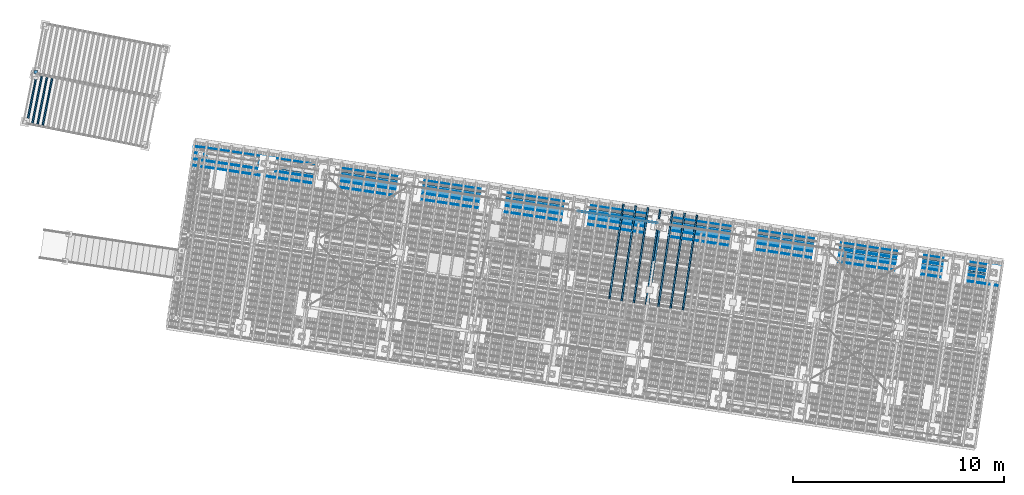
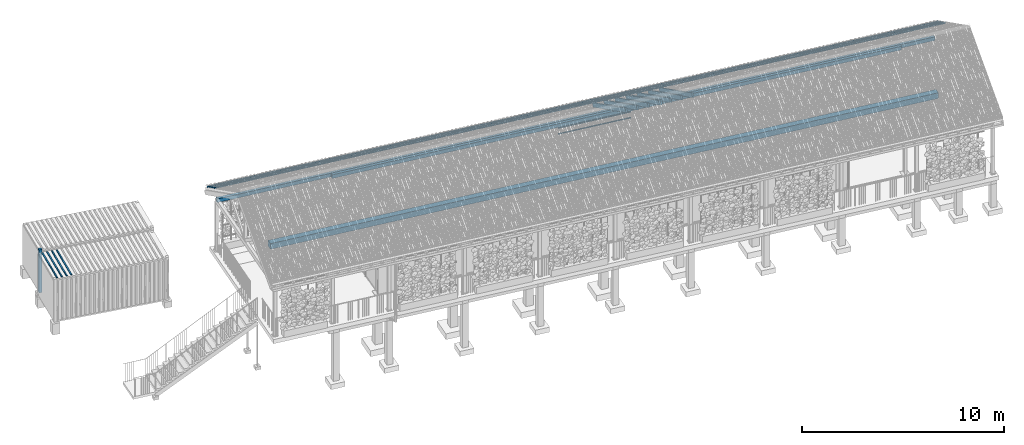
# One storey, part 82 of 131: 19 members, 3 beams, 5 elements without a shape of their own.
"""IFC4 building model written with IfcOpenShell, lengths in metres."""

from ifc_helpers import new_model, si_unit, direction, frame, origin_with_axes, place, context, subcontext, project, spatial, polyline, rectangle, outline, extrude, material, material_profile, profile_set, profile_usage, type_object, element, aggregate, save


model = new_model("IFC4")

# Units and contexts
model_context = context("Model", 3, precision=1e-05, world=origin_with_axes(), true_north=direction((0.0, 1.0)))
body_context = subcontext(model_context, "Body", "Model", "MODEL_VIEW")
ifc_project = project(units=[si_unit("VOLUMEUNIT", "CUBIC_METRE"), si_unit("LENGTHUNIT", "METRE"), si_unit("AREAUNIT", "SQUARE_METRE")], contexts=[model_context])

# Site, building, storey
site_placement = place(None, origin_with_axes())
site = spatial("IfcSite", under=ifc_project, at=site_placement, Name="Lares · Rua das Mercês · artigo 4771")
building_placement = place(site_placement, frame((15.0, 9.7, 15.8), z_axis=(0.0, 0.0, 1.0), x_axis=(0.989015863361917, -0.147809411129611, 0.0)))
building = spatial("IfcBuilding", under=site, at=building_placement, Name="Casa Sobreposta")
storey_placement = place(building_placement, origin_with_axes())
storey = spatial("IfcBuildingStorey", under=building, at=storey_placement, Name="00 · Habitação e estacionamento", Elevation=15.8)

# Beam
ifc_material_1 = material(Name="Madeira / Bauholz", Category="wood")
ifc_material_profile_1 = material_profile(ifc_material_1, rectangle(XDim=0.16, YDim=0.22))
ifc_profile_set_1 = profile_set([ifc_material_profile_1], Name="TIMBER0.160x0.220")
ifc_profile_usage_1 = profile_usage(ifc_profile_set_1)
beam_type = type_object("IfcBeamType", Name="TIMBER0.160x0.220 / timber", PredefinedType="NOTDEFINED", material=ifc_profile_set_1)
beam_1_placement = place(storey_placement, frame((0.0, 6.28, 3.0), z_axis=(1.0, 0.0, 0.0), x_axis=(0.0, -1.0, 0.0)))
element("IfcBeam", 1, at=beam_1_placement, inside=storey, type_object=beam_type, material=ifc_profile_usage_1, Name="Cobertura · frechal longitudinal", context=body_context, shape_type="SweptSolid", body=[
    extrude(rectangle(XDim=0.16, YDim=0.22), origin_with_axes(), (0.0, 0.0, 1.0), 30.22),
])

# Assembly, beam
assembly_1_placement = place(storey_placement, origin_with_axes())
assembly_1 = element("IfcElementAssembly", 2, at=assembly_1_placement, inside=storey, Name="Varanda coberta · continuação integral da cobertura", ObjectType="COVERED_PODIUM_BALCONY", PredefinedType="USERDEFINED")
ifc_profile_usage_2 = profile_usage(ifc_profile_set_1)
beam_2_placement = place(assembly_1_placement, frame((-6.05, 6.43, 3.0), z_axis=(1.0, 0.0, 0.0), x_axis=(0.0, -1.0, 0.0)))
beam_2 = element("IfcBeam", 3, at=beam_2_placement, type_object=beam_type, material=ifc_profile_usage_2, Name="Varanda coberta · frechal", context=body_context, shape_type="SweptSolid", body=[
    extrude(rectangle(XDim=0.16, YDim=0.22), origin_with_axes(), (0.0, 0.0, 1.0), 38.1),
])
aggregate(assembly_1, [beam_2])

# Members
ifc_material_2 = material(Name="Aço pintado / Stahl lackiert", Category="steel")
ifc_material_profile_2 = material_profile(ifc_material_2, rectangle(XDim=0.035, YDim=0.035))
ifc_profile_set_2 = profile_set([ifc_material_profile_2], Name="R0.035")
ifc_profile_usage_3 = profile_usage(ifc_profile_set_2)
member_type_1 = type_object("IfcMemberType", Name="R0.035 / steel", PredefinedType="NOTDEFINED", material=ifc_profile_set_2)
member_1_placement = place(storey_placement, frame((12.08, 6.4, 2.35), z_axis=(1.0, 0.0, 0.0), x_axis=(0.0, -1.0, 0.0)))
element("IfcMember", 4, at=member_1_placement, inside=storey, type_object=member_type_1, material=ifc_profile_usage_3, Name="Rasgo norte 4 · travessa", context=body_context, shape_type="SweptSolid", body=[
    extrude(rectangle(XDim=0.035, YDim=0.035), origin_with_axes(), (0.0, 0.0, 1.0), 3.84),
])
ifc_profile_usage_4 = profile_usage(ifc_profile_set_2)
member_2_placement = place(storey_placement, frame((12.08, 6.4, 2.7), z_axis=(1.0, 0.0, 0.0), x_axis=(0.0, -1.0, 0.0)))
element("IfcMember", 5, at=member_2_placement, inside=storey, type_object=member_type_1, material=ifc_profile_usage_4, Name="Rasgo norte 4 · travessa", context=body_context, shape_type="SweptSolid", body=[
    extrude(rectangle(XDim=0.035, YDim=0.035), origin_with_axes(), (0.0, 0.0, 1.0), 3.84),
])

# Roof, members
roof_placement = place(storey_placement, origin_with_axes())
roof = element("IfcRoof", 6, at=roof_placement, inside=storey, material=ifc_material_1, Name="Cobertura de telha · duas águas 30 graus", PredefinedType="GABLE_ROOF")
ifc_material_profile_3 = material_profile(ifc_material_1, rectangle(XDim=0.16, YDim=0.24))
ifc_profile_set_3 = profile_set([ifc_material_profile_3], Name="TIMBER0.160x0.240")
ifc_profile_usage_5 = profile_usage(ifc_profile_set_3)
member_type_2 = type_object("IfcMemberType", Name="TIMBER0.160x0.240 / timber", PredefinedType="NOTDEFINED", material=ifc_profile_set_3)
member_3_placement = place(roof_placement, frame((16.0, 2.55, 5.74420869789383), z_axis=(0.0, 0.866025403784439, -0.5), x_axis=(1.0, 0.0, 0.0)))
member_3 = element("IfcMember", 7, at=member_3_placement, type_object=member_type_2, material=ifc_profile_usage_5, Name="Tesoura · perna", context=body_context, shape_type="SweptSolid", body=[
    extrude(rectangle(XDim=0.16, YDim=0.24), origin_with_axes(), (0.0, 0.0, 1.0), 4.4802380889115),
])
ifc_material_profile_4 = material_profile(ifc_material_1, rectangle(XDim=0.08, YDim=0.24))
ifc_profile_set_4 = profile_set([ifc_material_profile_4], Name="TIMBER0.080x0.240")
ifc_profile_usage_6 = profile_usage(ifc_profile_set_4)
member_type_3 = type_object("IfcMemberType", Name="TIMBER0.080x0.240 / timber", PredefinedType="NOTDEFINED", material=ifc_profile_set_4)
member_4_placement = place(roof_placement, frame((14.1757575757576, 2.55, 5.75020869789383), z_axis=(0.0, 0.866025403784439, -0.5), x_axis=(1.0, 0.0, 0.0)))
member_4 = element("IfcMember", 8, at=member_4_placement, type_object=member_type_3, material=ifc_profile_usage_6, Name="Cobertura · caibro", context=body_context, shape_type="SweptSolid", body=[
    extrude(rectangle(XDim=0.08, YDim=0.24), origin_with_axes(), (0.0, 0.0, 1.0), 5.13841739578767),
])
ifc_profile_usage_7 = profile_usage(ifc_profile_set_4)
member_5_placement = place(roof_placement, frame((14.7636363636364, 2.55, 5.75020869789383), z_axis=(0.0, 0.866025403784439, -0.5), x_axis=(1.0, 0.0, 0.0)))
member_5 = element("IfcMember", 9, at=member_5_placement, type_object=member_type_3, material=ifc_profile_usage_7, Name="Cobertura · caibro", context=body_context, shape_type="SweptSolid", body=[
    extrude(rectangle(XDim=0.08, YDim=0.24), origin_with_axes(), (0.0, 0.0, 1.0), 5.13841739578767),
])
ifc_profile_usage_8 = profile_usage(ifc_profile_set_4)
member_6_placement = place(roof_placement, frame((15.3515151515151, 2.55, 5.75020869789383), z_axis=(0.0, 0.866025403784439, -0.5), x_axis=(1.0, 0.0, 0.0)))
member_6 = element("IfcMember", 10, at=member_6_placement, type_object=member_type_3, material=ifc_profile_usage_8, Name="Cobertura · caibro", context=body_context, shape_type="SweptSolid", body=[
    extrude(rectangle(XDim=0.08, YDim=0.24), origin_with_axes(), (0.0, 0.0, 1.0), 5.13841739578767),
])
ifc_profile_usage_9 = profile_usage(ifc_profile_set_4)
member_7_placement = place(roof_placement, frame((15.9393939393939, 2.55, 5.75020869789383), z_axis=(0.0, 0.866025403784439, -0.5), x_axis=(1.0, 0.0, 0.0)))
member_7 = element("IfcMember", 11, at=member_7_placement, type_object=member_type_3, material=ifc_profile_usage_9, Name="Cobertura · caibro", context=body_context, shape_type="SweptSolid", body=[
    extrude(rectangle(XDim=0.08, YDim=0.24), origin_with_axes(), (0.0, 0.0, 1.0), 5.13841739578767),
])
ifc_profile_usage_10 = profile_usage(ifc_profile_set_4)
member_8_placement = place(roof_placement, frame((16.5272727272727, 2.55, 5.75020869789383), z_axis=(0.0, 0.866025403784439, -0.5), x_axis=(1.0, 0.0, 0.0)))
member_8 = element("IfcMember", 12, at=member_8_placement, type_object=member_type_3, material=ifc_profile_usage_10, Name="Cobertura · caibro", context=body_context, shape_type="SweptSolid", body=[
    extrude(rectangle(XDim=0.08, YDim=0.24), origin_with_axes(), (0.0, 0.0, 1.0), 5.13841739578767),
])
ifc_profile_usage_11 = profile_usage(ifc_profile_set_4)
member_9_placement = place(roof_placement, frame((17.1151515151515, 2.55, 5.75020869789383), z_axis=(0.0, 0.866025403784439, -0.5), x_axis=(1.0, 0.0, 0.0)))
member_9 = element("IfcMember", 13, at=member_9_placement, type_object=member_type_3, material=ifc_profile_usage_11, Name="Cobertura · caibro", context=body_context, shape_type="SweptSolid", body=[
    extrude(rectangle(XDim=0.08, YDim=0.24), origin_with_axes(), (0.0, 0.0, 1.0), 5.13841739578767),
])
ifc_profile_usage_12 = profile_usage(ifc_profile_set_4)
member_10_placement = place(roof_placement, frame((17.7030303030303, 2.55, 5.75020869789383), z_axis=(0.0, 0.866025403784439, -0.5), x_axis=(1.0, 0.0, 0.0)))
member_10 = element("IfcMember", 14, at=member_10_placement, type_object=member_type_3, material=ifc_profile_usage_12, Name="Cobertura · caibro", context=body_context, shape_type="SweptSolid", body=[
    extrude(rectangle(XDim=0.08, YDim=0.24), origin_with_axes(), (0.0, 0.0, 1.0), 5.13841739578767),
])
ifc_material_profile_5 = material_profile(ifc_material_1, rectangle(XDim=0.045, YDim=0.06))
ifc_profile_set_5 = profile_set([ifc_material_profile_5], Name="TIMBER0.045x0.060")
ifc_profile_usage_13 = profile_usage(ifc_profile_set_5)
member_type_4 = type_object("IfcMemberType", Name="TIMBER0.045x0.060 / timber", PredefinedType="NOTDEFINED", material=ifc_profile_set_5)
member_11_placement = place(roof_placement, frame((-6.4, 5.85, 4.19795280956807), z_axis=(1.0, 0.0, 0.0), x_axis=(0.0, -1.0, 0.0)))
member_11 = element("IfcMember", 15, at=member_11_placement, type_object=member_type_4, material=ifc_profile_usage_13, Name="Cobertura · ripa ventilada", context=body_context, shape_type="SweptSolid", body=[
    extrude(rectangle(XDim=0.045, YDim=0.06), origin_with_axes(), (0.0, 0.0, 1.0), 38.8),
])
ifc_profile_usage_14 = profile_usage(ifc_profile_set_5)
member_12_placement = place(roof_placement, frame((-6.4, 6.15, 4.02474772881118), z_axis=(1.0, 0.0, 0.0), x_axis=(0.0, -1.0, 0.0)))
member_12 = element("IfcMember", 16, at=member_12_placement, type_object=member_type_4, material=ifc_profile_usage_14, Name="Cobertura · ripa ventilada", context=body_context, shape_type="SweptSolid", body=[
    extrude(rectangle(XDim=0.045, YDim=0.06), origin_with_axes(), (0.0, 0.0, 1.0), 38.8),
])
ifc_profile_usage_15 = profile_usage(ifc_profile_set_5)
member_13_placement = place(roof_placement, frame((-6.4, 6.45, 3.8515426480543), z_axis=(1.0, 0.0, 0.0), x_axis=(0.0, -1.0, 0.0)))
member_13 = element("IfcMember", 17, at=member_13_placement, type_object=member_type_4, material=ifc_profile_usage_15, Name="Cobertura · ripa ventilada", context=body_context, shape_type="SweptSolid", body=[
    extrude(rectangle(XDim=0.045, YDim=0.06), origin_with_axes(), (0.0, 0.0, 1.0), 38.8),
])
ifc_profile_usage_16 = profile_usage(ifc_profile_set_5)
member_14_placement = place(roof_placement, frame((-6.4, 6.75, 3.67833756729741), z_axis=(1.0, 0.0, 0.0), x_axis=(0.0, -1.0, 0.0)))
member_14 = element("IfcMember", 18, at=member_14_placement, type_object=member_type_4, material=ifc_profile_usage_16, Name="Cobertura · ripa ventilada", context=body_context, shape_type="SweptSolid", body=[
    extrude(rectangle(XDim=0.045, YDim=0.06), origin_with_axes(), (0.0, 0.0, 1.0), 38.8),
])
aggregate(roof, [member_3, member_4, member_5, member_6, member_7, member_8, member_9, member_10, member_11, member_12, member_13, member_14])

# Assembly, beam
assembly_2_placement = place(storey_placement, origin_with_axes())
assembly_2 = element("IfcElementAssembly", 19, at=assembly_2_placement, inside=storey, Name="Pódio · terraço, casa térrea e cisterna", ObjectType="CISTERN_PODIUM", PredefinedType="USERDEFINED")
ifc_material_3 = material(Name="Betão armado / Stahlbeton", Category="concrete")
beam_3_placement = place(assembly_2_placement, frame((0.0, 0.0, -0.59), z_axis=(0.0, 0.0, 1.0), x_axis=(1.0, 0.0, 0.0)))
beam_3 = element("IfcBeam", 20, at=beam_3_placement, material=ifc_material_3, Name="Pódio suspenso · viga longitudinal", context=body_context, shape_type="SweptSolid", body=[
    extrude(outline(polyline([(32.21, 6.27), (32.21, 6.59), (-3.25, 6.59), (-3.25, 6.27), (32.21, 6.27)])), origin_with_axes(), (0.0, 0.0, 1.0), 0.34),
])
aggregate(assembly_2, [beam_3])

# Assembly, member
assembly_3_placement = place(storey_placement, frame((-14.4335953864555, 9.04888612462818, 0.0), z_axis=(0.0, 0.0, 1.0), x_axis=(0.999032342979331, -0.0439815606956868, 0.0)))
assembly_3 = element("IfcElementAssembly", 21, at=assembly_3_placement, inside=storey, Name="Contentor existente 1 · 6 m", ObjectType="EXISTING_SHIPPING_CONTAINER", PredefinedType="USERDEFINED")
ifc_material_4 = material(Name="Contentor · pintura 1", Category="steel")
member_15_placement = place(assembly_3_placement, frame((0.0, 0.0, -2.16314181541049), z_axis=(0.0, 0.0, 1.0), x_axis=(1.0, 0.0, 0.0)))
member_15 = element("IfcMember", 22, at=member_15_placement, material=ifc_material_4, Name="Contentor · canto", context=body_context, shape_type="SweptSolid", body=[
    extrude(outline(polyline([(0.16, 0.0), (0.16, 0.16), (0.0, 0.16), (0.0, 0.0), (0.16, 0.0)])), origin_with_axes(), (0.0, 0.0, 1.0), 2.59),
])
aggregate(assembly_3, [member_15])

# Assembly, members
assembly_4_placement = place(storey_placement, frame((-14.5932944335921, 6.63122214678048, 0.0), z_axis=(0.0, 0.0, 1.0), x_axis=(0.998832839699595, -0.0483007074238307, 0.0)))
assembly_4 = element("IfcElementAssembly", 23, at=assembly_4_placement, inside=storey, Name="Contentor existente 2 · 6 m", ObjectType="EXISTING_SHIPPING_CONTAINER", PredefinedType="USERDEFINED")
ifc_material_5 = material(Name="Contentor · pintura 2", Category="steel")
member_16_placement = place(assembly_4_placement, frame((0.0, 0.0, 0.266248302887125), z_axis=(0.0, 0.0, 1.0), x_axis=(1.0, 0.0, 0.0)))
member_16 = element("IfcMember", 24, at=member_16_placement, material=ifc_material_5, Name="Contentor · nervura cobertura", context=body_context, shape_type="SweptSolid", body=[
    extrude(outline(polyline([(0.23, 0.08), (0.23, 2.36), (0.15, 2.36), (0.15, 0.08), (0.23, 0.08)])), origin_with_axes(), (0.0, 0.0, 1.0), 0.018),
])
member_17_placement = place(assembly_4_placement, frame((0.0, 0.0, 0.266248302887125), z_axis=(0.0, 0.0, 1.0), x_axis=(1.0, 0.0, 0.0)))
member_17 = element("IfcMember", 25, at=member_17_placement, material=ifc_material_5, Name="Contentor · nervura cobertura", context=body_context, shape_type="SweptSolid", body=[
    extrude(outline(polyline([(0.48, 0.08), (0.48, 2.36), (0.4, 2.36), (0.4, 0.08), (0.48, 0.08)])), origin_with_axes(), (0.0, 0.0, 1.0), 0.018),
])
member_18_placement = place(assembly_4_placement, frame((0.0, 0.0, 0.266248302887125), z_axis=(0.0, 0.0, 1.0), x_axis=(1.0, 0.0, 0.0)))
member_18 = element("IfcMember", 26, at=member_18_placement, material=ifc_material_5, Name="Contentor · nervura cobertura", context=body_context, shape_type="SweptSolid", body=[
    extrude(outline(polyline([(0.73, 0.08), (0.73, 2.36), (0.65, 2.36), (0.65, 0.08), (0.73, 0.08)])), origin_with_axes(), (0.0, 0.0, 1.0), 0.018),
])
member_19_placement = place(assembly_4_placement, frame((0.0, 0.0, 0.266248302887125), z_axis=(0.0, 0.0, 1.0), x_axis=(1.0, 0.0, 0.0)))
member_19 = element("IfcMember", 27, at=member_19_placement, material=ifc_material_5, Name="Contentor · nervura cobertura", context=body_context, shape_type="SweptSolid", body=[
    extrude(outline(polyline([(0.98, 0.08), (0.98, 2.36), (0.9, 2.36), (0.9, 0.08), (0.98, 0.08)])), origin_with_axes(), (0.0, 0.0, 1.0), 0.018),
])
aggregate(assembly_4, [member_16, member_17, member_18, member_19])

save(model, "model.ifc")
